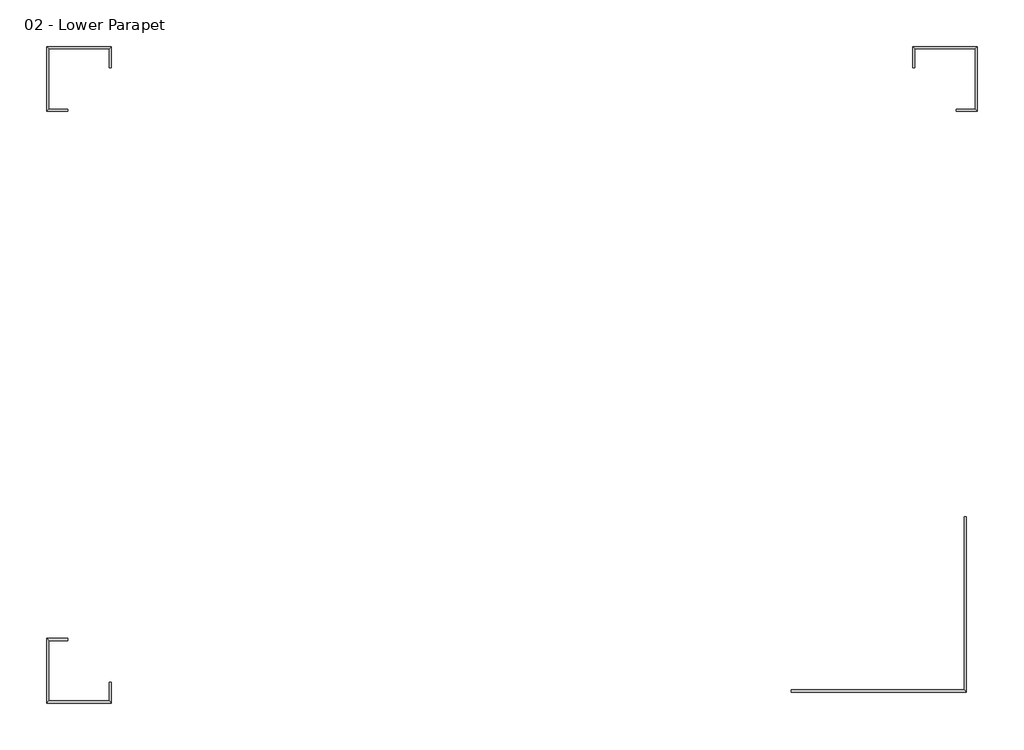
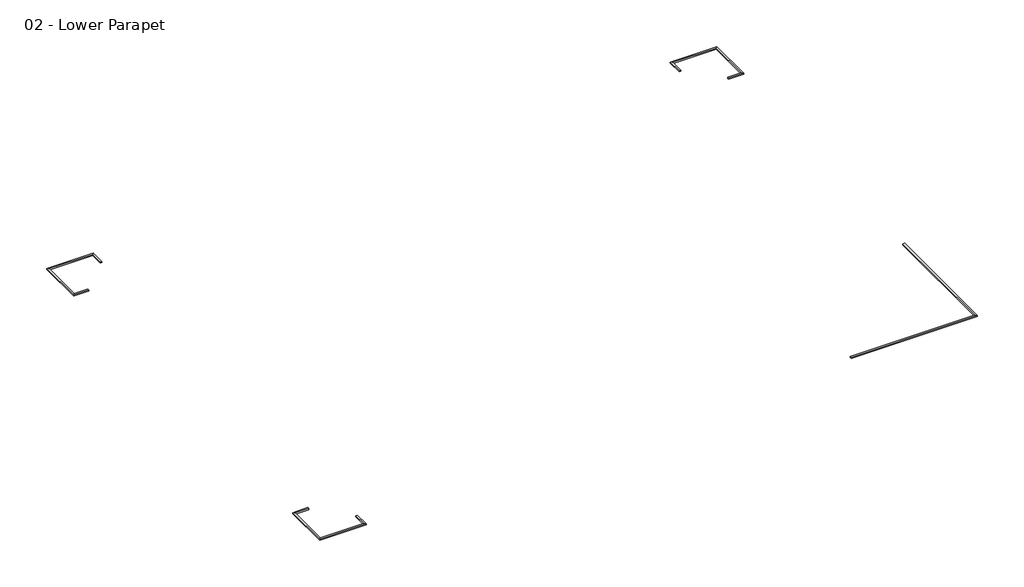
# One storey: 14 proxies.
"""IFC4 building model written with IfcOpenShell, lengths in millimetres."""

from ifc_helpers import new_model, si_unit, frame, origin, place, context, project, spatial, polyline, outline, extrude, element, save

model = new_model("IFC4")

# Units and contexts
model_context = context("Model", 3, world=origin())
ifc_project = project(units=[si_unit("LENGTHUNIT", "METRE", prefix="MILLI")], contexts=[model_context])

# Site, building, storey
site = spatial("IfcSite", under=ifc_project)
building = spatial("IfcBuilding", under=site)
storey = spatial("IfcBuildingStorey", under=building, Name="02 - Lower Parapet", Elevation=7500.0)

# Proxies
placement = place(None, origin())
element("IfcBuildingElementProxy", 1, Name="Reveals", at=placement, inside=storey, context=model_context, shape_type="SweptSolid", body=[
    extrude(outline(polyline([(-20106.4727721, -13977.9313057), (-20003.9727721, -13977.9313057), (-20003.9727721, -14934.2313057), (-20106.4727721, -14831.7313057), (-20106.4727721, -13977.9313057)])), frame((0.0, 0.0, 7700.0), z_axis=(0.0, 0.0, 1.0), x_axis=(1.0, 0.0, 0.0)), (0.0, 0.0, 1.0), 75.0),
])
element("IfcBuildingElementProxy", 2, Name="Reveals", at=placement, inside=storey, context=model_context, shape_type="SweptSolid", body=[
    extrude(outline(polyline([(-20106.4727721, -14831.7313057), (-20003.9727721, -14934.2313057), (-22946.9727721, -14934.2313057), (-22844.4727721, -14831.7313057), (-20106.4727721, -14831.7313057)])), frame((0.0, 0.0, 7700.0), z_axis=(0.0, 0.0, 1.0), x_axis=(1.0, 0.0, 0.0)), (0.0, 0.0, 1.0), 75.0),
])
element("IfcBuildingElementProxy", 3, Name="Reveals", at=placement, inside=storey, context=model_context, shape_type="SweptSolid", body=[
    extrude(outline(polyline([(-22844.4727721, -14831.7313057), (-22946.9727721, -14934.2313057), (-22946.9727721, -11991.2313057), (-22844.4727721, -12093.7313057), (-22844.4727721, -14831.7313057)])), frame((0.0, 0.0, 7700.0), z_axis=(0.0, 0.0, 1.0), x_axis=(1.0, 0.0, 0.0)), (0.0, 0.0, 1.0), 75.0),
])
element("IfcBuildingElementProxy", 4, Name="Reveals", at=placement, inside=storey, context=model_context, shape_type="SweptSolid", body=[
    extrude(outline(polyline([(-22844.4727721, -12093.7313057), (-22946.9727721, -11991.2313057), (-21990.4727721, -11991.2313057), (-21990.4727721, -12093.7313057), (-22844.4727721, -12093.7313057)])), frame((0.0, 0.0, 7700.0), z_axis=(0.0, 0.0, 1.0), x_axis=(1.0, 0.0, 0.0)), (0.0, 0.0, 1.0), 75.0),
])
element("IfcBuildingElementProxy", 5, Name="Reveals", at=placement, inside=storey, context=model_context, shape_type="SweptSolid", body=[
    extrude(outline(polyline([(-21990.4727721, 12030.0686943), (-21990.4727721, 11927.5686943), (-22946.9727721, 11927.5686943), (-22844.4727721, 12030.0686943), (-21990.4727721, 12030.0686943)])), frame((0.0, 0.0, 7700.0), z_axis=(0.0, 0.0, 1.0), x_axis=(1.0, 0.0, 0.0)), (0.0, 0.0, 1.0), 75.0),
])
element("IfcBuildingElementProxy", 6, Name="Reveals", at=placement, inside=storey, context=model_context, shape_type="SweptSolid", body=[
    extrude(outline(polyline([(-22844.4727721, 12030.0686943), (-22946.9727721, 11927.5686943), (-22946.9727721, 14870.5686943), (-22844.4727721, 14768.0686943), (-22844.4727721, 12030.0686943)])), frame((0.0, 0.0, 7700.0), z_axis=(0.0, 0.0, 1.0), x_axis=(1.0, 0.0, 0.0)), (0.0, 0.0, 1.0), 75.0),
])
element("IfcBuildingElementProxy", 7, Name="Reveals", at=placement, inside=storey, context=model_context, shape_type="SweptSolid", body=[
    extrude(outline(polyline([(-22844.4727721, 14768.0686943), (-22946.9727721, 14870.5686943), (-20003.9727721, 14870.5686943), (-20106.4727721, 14768.0686943), (-22844.4727721, 14768.0686943)])), frame((0.0, 0.0, 7700.0), z_axis=(0.0, 0.0, 1.0), x_axis=(1.0, 0.0, 0.0)), (0.0, 0.0, 1.0), 75.0),
])
element("IfcBuildingElementProxy", 8, Name="Reveals", at=placement, inside=storey, context=model_context, shape_type="SweptSolid", body=[
    extrude(outline(polyline([(-20106.4727721, 14768.0686943), (-20003.9727721, 14870.5686943), (-20003.9727721, 13914.0686943), (-20106.4727721, 13914.0686943), (-20106.4727721, 14768.0686943)])), frame((0.0, 0.0, 7700.0), z_axis=(0.0, 0.0, 1.0), x_axis=(1.0, 0.0, 0.0)), (0.0, 0.0, 1.0), 75.0),
])
element("IfcBuildingElementProxy", 9, Name="Reveals", at=placement, inside=storey, context=model_context, shape_type="SweptSolid", body=[
    extrude(outline(polyline([(16467.5272279, 13914.0686943), (16365.0272279, 13914.0686943), (16365.0272279, 14870.5686943), (16467.5272279, 14768.0686943), (16467.5272279, 13914.0686943)])), frame((0.0, 0.0, 7700.0), z_axis=(0.0, 0.0, 1.0), x_axis=(1.0, 0.0, 0.0)), (0.0, 0.0, 1.0), 75.0),
])
element("IfcBuildingElementProxy", 10, Name="Reveals", at=placement, inside=storey, context=model_context, shape_type="SweptSolid", body=[
    extrude(outline(polyline([(16467.5272279, 14768.0686943), (16365.0272279, 14870.5686943), (19308.0272279, 14870.5686943), (19205.5272279, 14768.0686943), (16467.5272279, 14768.0686943)])), frame((0.0, 0.0, 7700.0), z_axis=(0.0, 0.0, 1.0), x_axis=(1.0, 0.0, 0.0)), (0.0, 0.0, 1.0), 75.0),
])
element("IfcBuildingElementProxy", 11, Name="Reveals", at=placement, inside=storey, context=model_context, shape_type="SweptSolid", body=[
    extrude(outline(polyline([(19205.5272279, 14768.0686943), (19308.0272279, 14870.5686943), (19308.0272279, 11927.5686943), (19205.5272279, 12030.0686943), (19205.5272279, 14768.0686943)])), frame((0.0, 0.0, 7700.0), z_axis=(0.0, 0.0, 1.0), x_axis=(1.0, 0.0, 0.0)), (0.0, 0.0, 1.0), 75.0),
])
element("IfcBuildingElementProxy", 12, Name="Reveals", at=placement, inside=storey, context=model_context, shape_type="SweptSolid", body=[
    extrude(outline(polyline([(19205.5272279, 12030.0686943), (19308.0272279, 11927.5686943), (18351.5272279, 11927.5686943), (18351.5272279, 12030.0686943), (19205.5272279, 12030.0686943)])), frame((0.0, 0.0, 7700.0), z_axis=(0.0, 0.0, 1.0), x_axis=(1.0, 0.0, 0.0)), (0.0, 0.0, 1.0), 75.0),
])
element("IfcBuildingElementProxy", 13, Name="Reveals", at=placement, inside=storey, context=model_context, shape_type="SweptSolid", body=[
    extrude(outline(polyline([(18705.5272279, -6481.9313057), (18808.0272279, -6481.9313057), (18808.0272279, -14434.4313057), (18705.5272279, -14331.9313057), (18705.5272279, -6481.9313057)])), frame((0.0, 0.0, 7700.0), z_axis=(0.0, 0.0, 1.0), x_axis=(1.0, 0.0, 0.0)), (0.0, 0.0, 1.0), 75.0),
])
element("IfcBuildingElementProxy", 14, Name="Reveals", at=placement, inside=storey, context=model_context, shape_type="SweptSolid", body=[
    extrude(outline(polyline([(18705.5272279, -14331.9313057), (18808.0272279, -14434.4313057), (10855.5272279, -14434.4313057), (10855.5272279, -14331.9313057), (18705.5272279, -14331.9313057)])), frame((0.0, 0.0, 7700.0), z_axis=(0.0, 0.0, 1.0), x_axis=(1.0, 0.0, 0.0)), (0.0, 0.0, 1.0), 75.0),
])

save(model, "model.ifc")
